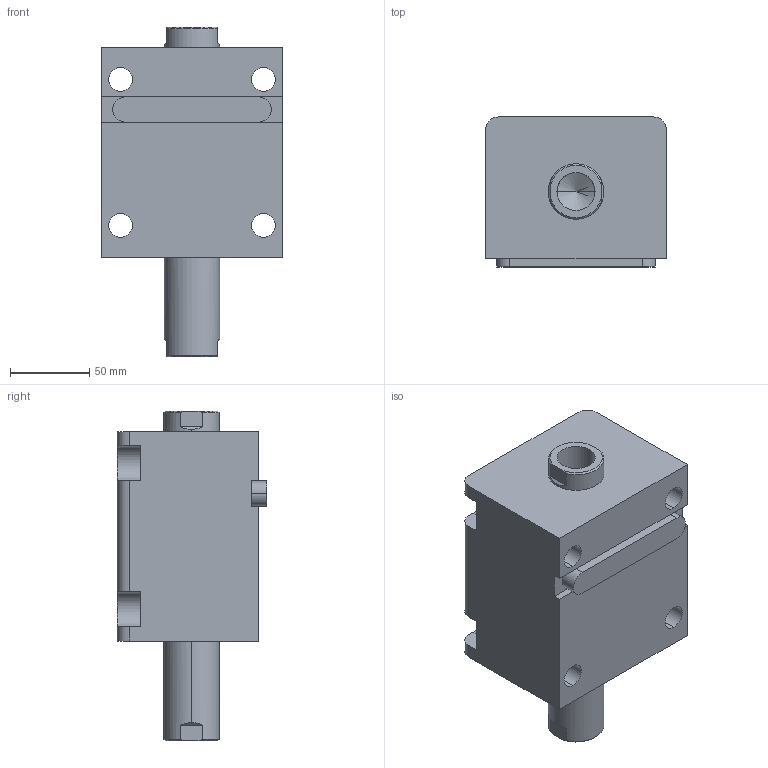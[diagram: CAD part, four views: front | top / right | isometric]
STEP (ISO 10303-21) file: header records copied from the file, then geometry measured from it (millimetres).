
FILE_DESCRIPTION (( 'STEP AP203' ), '1' );
FILE_NAME ('HTB-LW63-50N.STEP', '2019-10-09T08:26:43', ( '微软用户' ), ( '微软中国' ), 'SwSTEP 2.0', 'SolidWorks 2012', '' );
FILE_SCHEMA (( 'CONFIG_CONTROL_DESIGN' ));
Length unit declared in the file: millimetre
Products named in the file (4): HTB-LW63-50N; HTB-LA63-瑩; HTB-LW63-50N活塞杆; HTB-LW63-50掛极
Assembly tree (3 placements, depth 2):
  HTB-LW63-50N
    HTB-LW63-50掛极
    HTB-LW63-50N活塞杆
    HTB-LA63-瑩
Bounding box: 114 x 94.5 x 208 mm (x, y, z)
Volume: 1189968.7 mm3; surface area: 154276.7 mm2
Topology: 3 solids, 3 shells, 101 faces, 253 edges, 164 vertices
Faces by surface type: plane 44, cylinder 41, cone 12, torus 4
Entity records: 3467 total; most frequent: CARTESIAN_POINT 576, DIRECTION 549, ORIENTED_EDGE 498, EDGE_CURVE 249, AXIS2_PLACEMENT_3D 209, VERTEX_POINT 164, LINE 131, VECTOR 131
